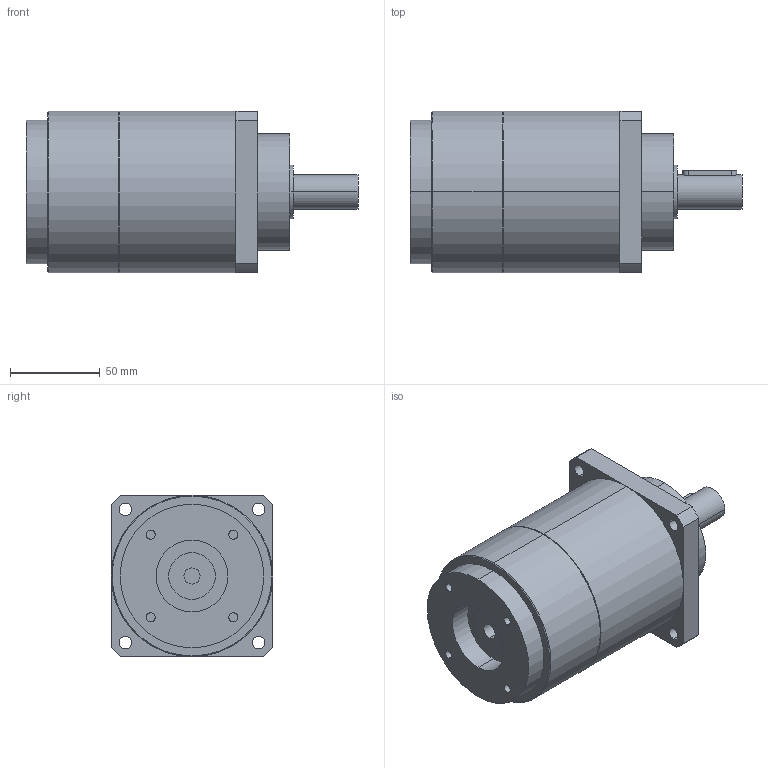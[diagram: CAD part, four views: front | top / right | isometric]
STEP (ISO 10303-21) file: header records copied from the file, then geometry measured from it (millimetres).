
FILE_DESCRIPTION(('CoCreate Modeling STEP Export'),'2;1');
FILE_NAME('GPT90_ig-9-12-16-20-25-28-35-40-50-70-100_19_B5T_9_P26.stp','2015-02-04T11:33:57',(''),(''),'CoCreate Modeling STEP processor for AP214 (Solid Model)','CoCreate Modeling 16.00C 25-Feb-2009 (C) Parametric Technology GmbH','');
FILE_SCHEMA(('AUTOMOTIVE_DESIGN { 1 0 10303 214 1 1 1 1 }'));
Length unit declared in the file: millimetre
Products named in the file (2): GPT90_ig-9-12-16-20-25-28-35-40-50-70-100_19_B5T_9_P26
Assembly tree (1 placements, depth 2):
  GPT90_ig-9-12-16-20-25-28-35-40-50-70-100_19_B5T_9_P26
    GPT90_ig-9-12-16-20-25-28-35-40-50-70-100_19_B5T_9_P26
Bounding box: 185 x 90 x 90 mm (x, y, z)
Volume: 877631.8 mm3; surface area: 63832.5 mm2
Topology: 1 solids, 1 shells, 72 faces, 182 edges, 125 vertices
Faces by surface type: cylinder 42, plane 26, cone 4
Entity records: 2313 total; most frequent: CARTESIAN_POINT 692, ORIENTED_EDGE 364, DIRECTION 272, EDGE_CURVE 182, VERTEX_POINT 125, AXIS2_PLACEMENT_3D 102, EDGE_LOOP 93, FACE_OUTER_BOUND 72
